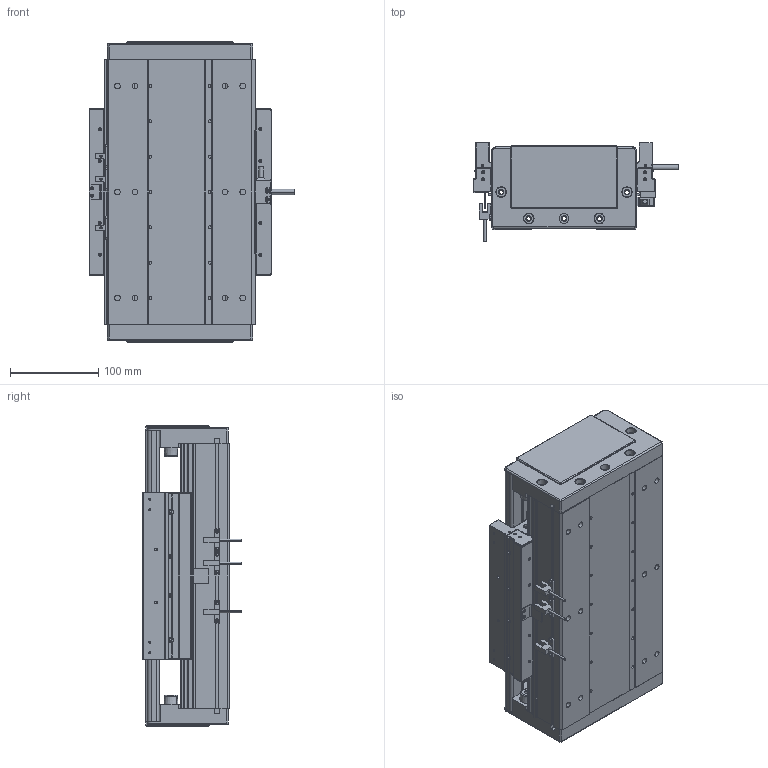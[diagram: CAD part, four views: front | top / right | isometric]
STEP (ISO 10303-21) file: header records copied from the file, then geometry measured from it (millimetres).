
FILE_DESCRIPTION (( 'STEP AP203' ), '1' );
FILE_NAME ('DA-C165-C2-T60-C010-0.2 直线电机.STEP', '2023-05-11T07:26:07', ( '微软用户' ), ( '微软中国' ), 'SwSTEP 2.0', 'SolidWorks 2019', '' );
FILE_SCHEMA (( 'CONFIG_CONTROL_DESIGN' ));
Length unit declared in the file: millimetre
Products named in the file (15): 珨极趙賑雄怢啣wf-C2; 葩璃 PM-T45^DA-C165-C2-T-C010-0.2-N 眻盄萇儂; 复件 CKM02-W075-C1C2-TP-3.0 一体电机-C2^DA-C165-C2-T-C010-0.2-N 直线电机; 复件 DMA-010-0.2 读数头^DA-C165-C2-T-C010-0.2-N 直线电机; IU-CU165-L 菁釱絳寢; 复件 DA165-GYP-00 光电感应片^DA-C165-C2-T-C010-0.2-N 直线电机; DA-C165-C2-T60-C010-0.2 眻盄萇儂; 复件 DA165-T-002-00 盖板^DA-C165-C2-T-C010-0.2-N 直线电机_0840-002-00; 葩璃 DA95-GT-T-00^IU-CU165-L 菁釱絳寢_T; 复件 六角薄螺母 M3^DA-C165-C2-T-C010-0.2-N 直线电机_GB_FASTENER_NUT_STNAB M3-C; 复件 DA95-HXJ-00 缓冲橡胶^DA-C165-C2-T-C010-0.2-N 直线电机; 复件 DA165-DG-H-N-00 端盖^DA-C165-C2-T-C010-0.2-N 直线电机; 葩璃 CKM01-W075-TRL^DA-C165-C2-T-C010-0.2-N 眻盄萇儂; 复件 XD-U-02L 磁栅尺^DA-C165-C2-T-C010-0.2-N 直线电机_T; IU-CU165-L-00 菁釱_L300
Assembly tree (28 placements, depth 3):
  DA-C165-C2-T60-C010-0.2 眻盄萇儂
    IU-CU165-L 菁釱絳寢
      IU-CU165-L-00 菁釱_L300
      葩璃 DA95-GT-T-00^IU-CU165-L 菁釱絳寢_T  x4
    复件 DA165-DG-H-N-00 端盖^DA-C165-C2-T-C010-0.2-N 直线电机  x2
    复件 DA95-HXJ-00 缓冲橡胶^DA-C165-C2-T-C010-0.2-N 直线电机  x4
    复件 DA165-T-002-00 盖板^DA-C165-C2-T-C010-0.2-N 直线电机_0840-002-00
    复件 XD-U-02L 磁栅尺^DA-C165-C2-T-C010-0.2-N 直线电机_T
    葩璃 PM-T45^DA-C165-C2-T-C010-0.2-N 眻盄萇儂  x3
    葩璃 CKM01-W075-TRL^DA-C165-C2-T-C010-0.2-N 眻盄萇儂
    复件 DA165-GYP-00 光电感应片^DA-C165-C2-T-C010-0.2-N 直线电机
    复件 DMA-010-0.2 读数头^DA-C165-C2-T-C010-0.2-N 直线电机
    复件 CKM02-W075-C1C2-TP-3.0 一体电机-C2^DA-C165-C2-T-C010-0.2-N 直线电机
    复件 六角薄螺母 M3^DA-C165-C2-T-C010-0.2-N 直线电机_GB_FASTENER_NUT_STNAB M3-C  x6
    珨极趙賑雄怢啣wf-C2
Bounding box: 233 x 111.45 x 340 mm (x, y, z)
Volume: 3829275.9 mm3; surface area: 907223.6 mm2
Topology: 66 solids, 66 shells, 2724 faces, 7116 edges, 4409 vertices
Faces by surface type: cylinder 1223, plane 1037, cone 406, torus 54, sphere 4
Entity records: 74953 total; most frequent: CARTESIAN_POINT 15228, DIRECTION 12500, ORIENTED_EDGE 11706, EDGE_CURVE 5853, AXIS2_PLACEMENT_3D 4641, VERTEX_POINT 3745, LINE 3218, VECTOR 3218
